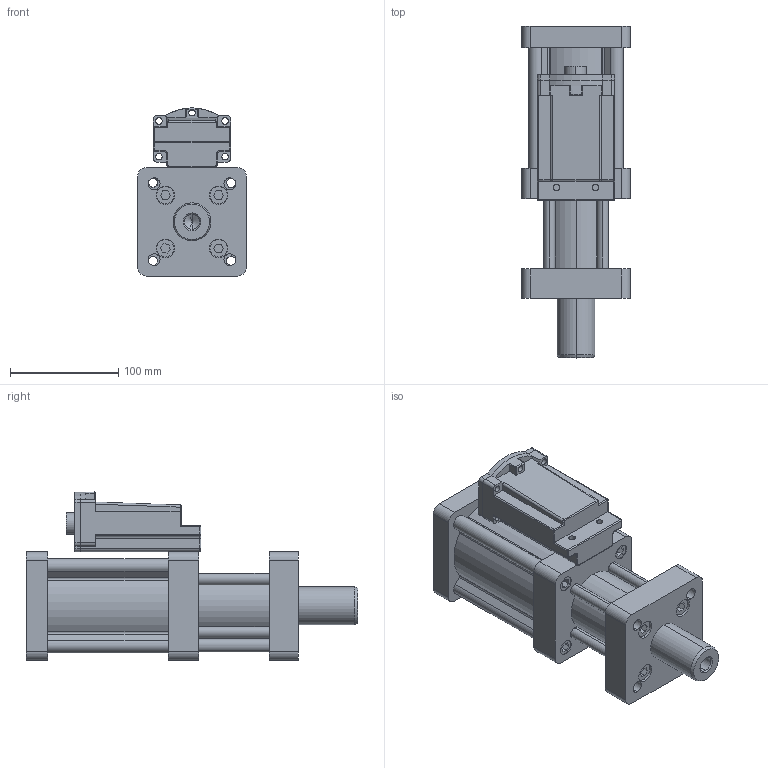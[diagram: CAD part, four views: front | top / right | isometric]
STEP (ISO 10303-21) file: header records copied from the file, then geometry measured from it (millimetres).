
FILE_DESCRIPTION (( 'STEP AP203' ), '1' );
FILE_NAME ('MPTC-50-10-1T.STEP', '2016-03-15T07:58:59', ( 'WIN' ), ( '' ), 'SwSTEP 2.0', 'SolidWorks 2014', '' );
FILE_SCHEMA (( 'CONFIG_CONTROL_DESIGN' ));
Length unit declared in the file: millimetre
Products named in the file (1): MPTC-50-10-1T
Bounding box: 100 x 306 x 154.97 mm (x, y, z)
Surface area: 279842.8 mm2 (no closed solid volume)
Topology: 0 solids, 6 shells, 534 faces, 1316 edges, 816 vertices
Faces by surface type: plane 282, cylinder 213, cone 24, sphere 8, torus 5, bspline 2
Entity records: 16190 total; most frequent: CARTESIAN_POINT 3114, DIRECTION 2867, ORIENTED_EDGE 2577, EDGE_CURVE 1300, AXIS2_PLACEMENT_3D 1061, VERTEX_POINT 816, LINE 745, VECTOR 745
